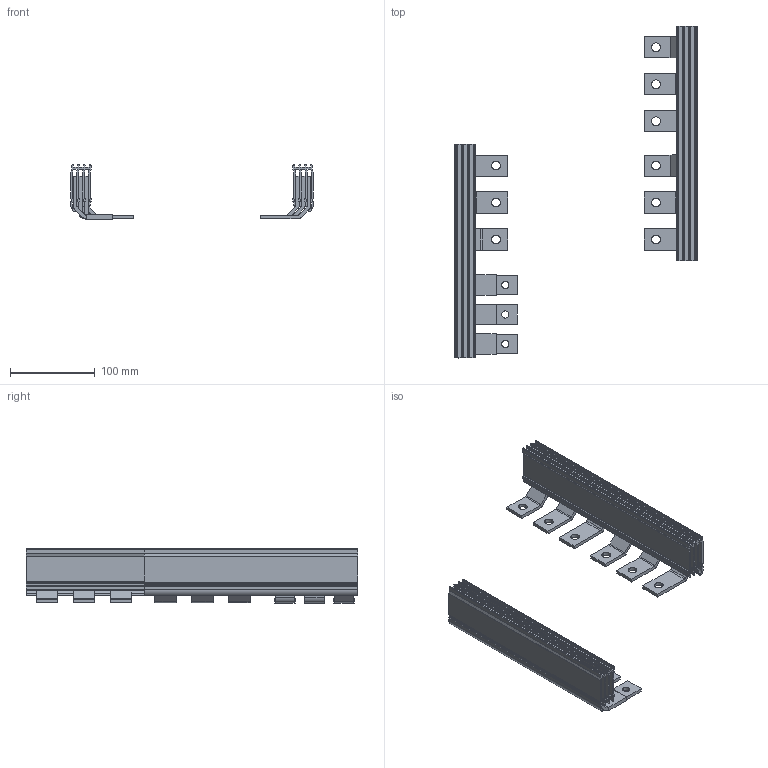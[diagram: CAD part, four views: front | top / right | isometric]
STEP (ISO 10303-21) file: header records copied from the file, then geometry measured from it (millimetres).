
FILE_DESCRIPTION((''),'2;1');
FILE_NAME('10004230781_ASM','2018-09-11T13:42:51',('whebeise'),('Rockwell Automation Switzerland GmbH'),'CREO PARAMETRIC BY PTC INC, 2017380','CREO PARAMETRIC BY PTC INC, 2017380','');
FILE_SCHEMA(('AUTOMOTIVE_DESIGN { 1 0 10303 214 1 1 1 1 }'));
Length unit declared in the file: millimetre
Products named in the file (11): 10004230771; 10004230772; 10004230773; 10004230774; 10004230775_ASM; 10004230776; 10004230777; 10004230778; 10004230779; 10004230780_ASM; 10004230781_ASM
Assembly tree (10 placements, depth 3):
  10004230781_ASM
    10004230775_ASM
      10004230771
      10004230772
      10004230773
      10004230774
    10004230780_ASM
      10004230776
      10004230777
      10004230778
      10004230779
Bounding box: 287.3 x 392.82 x 64 mm (x, y, z)
Volume: 419996.4 mm3; surface area: 343926.6 mm2
Topology: 8 solids, 8 shells, 486 faces, 1413 edges, 949 vertices
Faces by surface type: plane 270, cylinder 216
Entity records: 26584 total; most frequent: CARTESIAN_POINT 9584, DIRECTION 2951, ORIENTED_EDGE 2826, EDGE_CURVE 1413, AXIS2_PLACEMENT_3D 980, VECTOR 960, LINE 960, VERTEX_POINT 949
